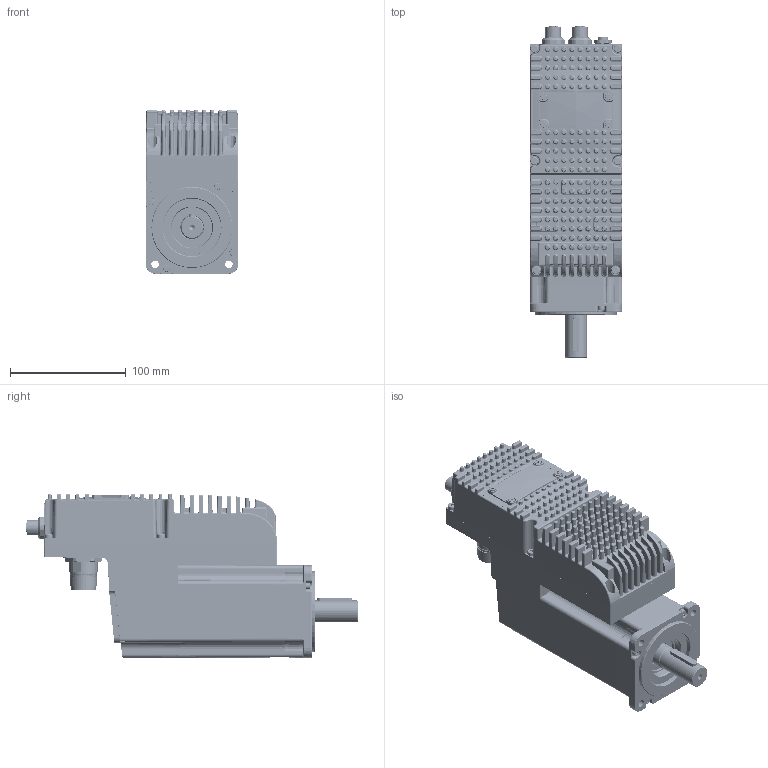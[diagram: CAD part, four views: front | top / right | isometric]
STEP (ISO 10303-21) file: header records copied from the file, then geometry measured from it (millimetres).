
FILE_DESCRIPTION(('CATIA V5 STEP Exchange'),'2;1');
FILE_NAME('F:\Meccanica\IBD\80\3D\assemblati\Custom MPC\DUET HV 80 2,8 A5 0 E 0\MD301516.0.0\DUET_HV_80_2,8_A5_0_E_0.stp','2015-07-23T05:58:56+00:00',('none'),('none'),'CATIA Version 5 Release 19 SP 2 (IN-10)','CATIA V5 STEP AP214','none');
FILE_SCHEMA(('AUTOMOTIVE_DESIGN { 1 0 10303 214 1 1 1 1 }'));
Products named in the file (54): DUET HV 80 2,8 A5 0 E 0; MD151014.1.0; MD081003.2.0; V_VTCTX40X12A; V_VTCTX3X6(8.8); LC101004.2.2.n; JS20MNQD6; JS26FSQ7; LT709037RLF1; UKSZ8721BLI; UET1100; JTP1633-2; PC101004.1.0; DLS5977701507; DLRR; DLRV; DWFR01FR10PS; LC051027.2.0; J_7458000000; Connettore_M23_IO; J_7001919137; frutto 16+3; contatto_1mm; contatto_1.5.mm; J_7651000000; Connettore_M23_pot; J_7084943101; JAC7010941001; JAC7010942001; MD081005.6.0; LC101003.3.0; PC101003.3.0; J_4301236; J_RKMHL4S55; JS20FDT7; dado_M12_conec; dado_M8_lumberg; MMTC802.8170012580Z4; Vite a brugola testa cil 8,8 -  M  3 x 10; Vite a brugola testa cil 8,8 -  M  3 x 50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
Assembly tree (101 placements, depth 4):
  DUET HV 80 2,8 A5 0 E 0
    MD151014.1.0
    MD081003.2.0
    V_VTCTX40X12A  x6
    V_VTCTX3X6(8.8)  x4
    LC101004.2.2.n
      JS20MNQD6
      JS26FSQ7
      LT709037RLF1  x2
      UKSZ8721BLI  x2
      UET1100
      JTP1633-2  x2
      PC101004.1.0
      DLS5977701507  x6
      DLRR
      DLRV  x3
      DWFR01FR10PS  x3
    LC051027.2.0
      J_7458000000
        Connettore_M23_IO
      J_7001919137
        frutto 16+3
        contatto_1mm  x16
        contatto_1.5.mm  x3
      J_7651000000
        Connettore_M23_pot
      J_7084943101
      JAC7010941001  x4
      JAC7010942001  x3
    MD081005.6.0
    LC101003.3.0
      PC101003.3.0
      J_4301236  x2
      J_RKMHL4S55
      JS20FDT7
    dado_M12_conec  x2
    dado_M8_lumberg
    MMTC802.8170012580Z4
      Vite a brugola testa cil 8,8 -  M  3 x 10  x2
      Vite a brugola testa cil 8,8 -  M  3 x 50  x2
      Vite a brugola testa cil 8,8 -  M  3 x 60  x2
      KI 80 2,8Nm_pred kit azionamento_enc std_OIH35_vuoto
        LI-PIA   6x6 x 30
        CUSC_20_42_12_6004_ZZ_4
        N33278
        N33278_1
        Vite a brugola testa cil 8,8 -  M  3 x 25
        Vite a brugola testa cil 8,8 -  M  3 x 25-oa0
        Vite a brugola testa cil 8,8 -  M  3 x 25-oa1
        Vite a brugola testa cil 8,8 -  M  3 x 25-oa2
        N01380
        N09292_1
      MD081001.4.0
    Dado_M23_IO  x2
Bounding box: 80 x 286.5 x 141.2 mm (x, y, z)
Volume: 699120.8 mm3; surface area: 383195.1 mm2
Topology: 102 solids, 105 shells, 10572 faces, 28045 edges, 17933 vertices
Faces by surface type: plane 4195, cylinder 3358, torus 1019, cone 896, bspline 660, sphere 317, extrusion 123, revolution 4
Entity records: 336666 total; most frequent: CARTESIAN_POINT 112519, ORIENTED_EDGE 43886, DIRECTION 29796, EDGE_CURVE 21943, VERTEX_POINT 14188, AXIS2_PLACEMENT_3D 13626, VECTOR 10118, LINE 9995
